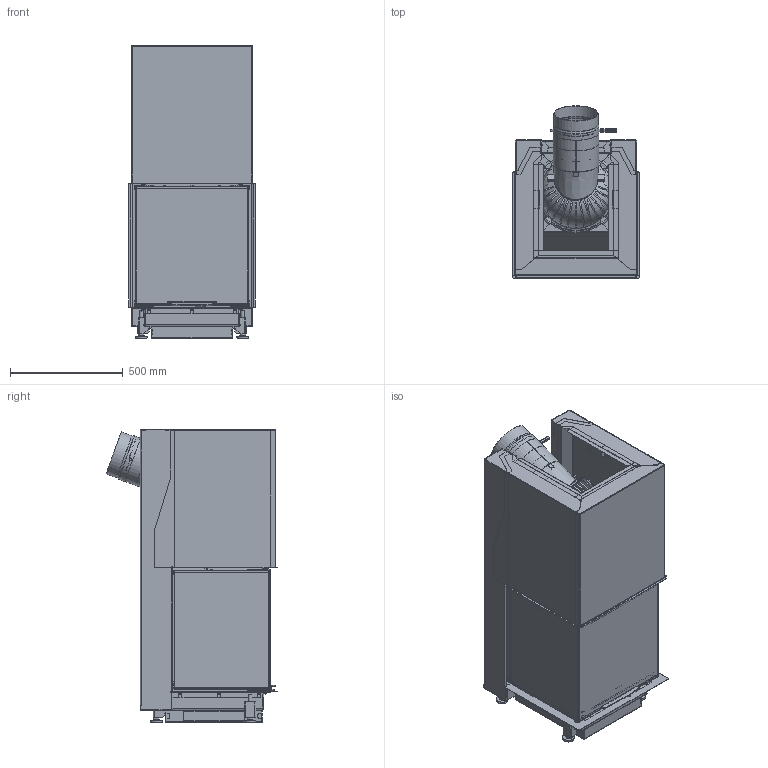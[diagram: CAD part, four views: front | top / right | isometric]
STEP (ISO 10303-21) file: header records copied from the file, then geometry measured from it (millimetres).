
FILE_DESCRIPTION(/* description */ (''),/* implementation_level */ '2;1');
FILE_NAME(/* name */ 'C:\ADSK_DM_WS\CAD_3D\03 Geraete\RIII 55x56x46\Zeichnungen\RIII 55x56x46 Gen.2 ohne Mantel Abgang hinten CAD Planung defriten 2021-03259 211124.stp',/* time_stamp */ '2021-11-24T13:20:36+01:00',/* author */ ('CPI'),/* organization */ (''),/* preprocessor_version */ 'ST-DEVELOPER v18.1',/* originating_system */ 'Autodesk Inventor 2022',/* authorisation */ '');
FILE_SCHEMA (('AUTOMOTIVE_DESIGN { 1 0 10303 214 3 1 1 }'));
Products named in the file (8): 2021-03259; 2021-03249; 2021-03251; 2021-03253; 2021-03255; 2021-03155; 2018-00985; 2021-03151
Assembly tree (7 placements, depth 2):
  2021-03259
    2021-03249
    2021-03251
    2021-03253
    2021-03255
    2021-03155
    2018-00985
    2021-03151
Bounding box: 560 x 762.77 x 1299 mm (x, y, z)
Volume: 30821384.9 mm3; surface area: 14796103.6 mm2
Topology: 18 solids, 32 shells, 7810 faces, 21633 edges, 13651 vertices
Faces by surface type: plane 4658, cylinder 2656, bspline 221, cone 214, torus 60, sphere 1
Full cylindrical faces by diameter (mm): 3.242 x6, 4 x9, 4.8 x1, 6 x3, 7.5 x8, 7.9 x2, 10 x19, 10.21 x4, 12 x4, 16 x10, 20 x4, 30 x4, 163 x1, 194 x1, 198 x1, 200 x1, 204 x1, 333 x1, 339 x1
Entity records: 262036 total; most frequent: CARTESIAN_POINT 55816, ORIENTED_EDGE 43142, DIRECTION 41994, EDGE_CURVE 21628, LINE 14136, VECTOR 14136, AXIS2_PLACEMENT_3D 13929, VERTEX_POINT 13643
